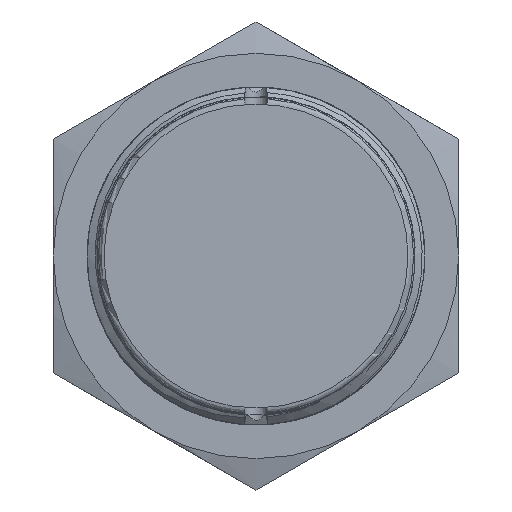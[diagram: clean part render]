
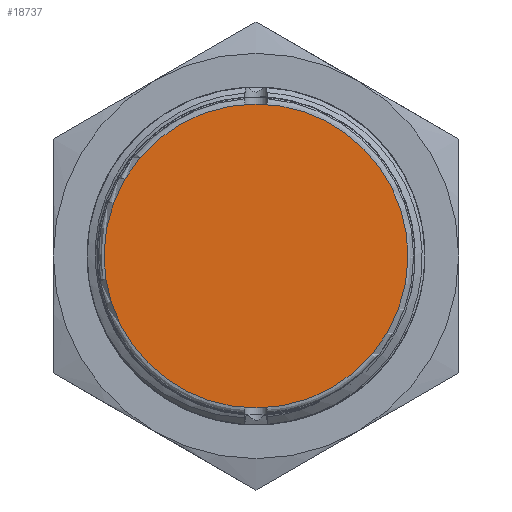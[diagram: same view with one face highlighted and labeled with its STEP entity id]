
A CAD part, left-side view. The second image highlights one B-rep face of the part: STEP entity #18737.
In plain terms, the highlighted planar face has unit normal (-1, 0, 0).
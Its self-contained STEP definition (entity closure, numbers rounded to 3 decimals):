
#8159=CARTESIAN_POINT('',(0.,0.,-13.5));
#8346=CARTESIAN_POINT('',(0.,0.,0.));
#8347=DIRECTION('',(1.,0.,0.));
#8348=DIRECTION('',(0.,0.,-1.));
#8349=AXIS2_PLACEMENT_3D('',#8346,#8347,#8348);
#8354=CARTESIAN_POINT('',(0.,0.,0.));
#8355=DIRECTION('',(1.,0.,0.));
#8356=DIRECTION('',(0.,1.,0.01));
#8357=AXIS2_PLACEMENT_3D('',#8354,#8355,#8356);
#8362=CARTESIAN_POINT('',(0.,0.,0.));
#8363=DIRECTION('',(1.,0.,0.));
#8364=DIRECTION('',(0.,0.,1.));
#8365=AXIS2_PLACEMENT_3D('',#8362,#8363,#8364);
#8370=CARTESIAN_POINT('',(0.,0.,0.));
#8371=DIRECTION('',(1.,0.,0.));
#8372=DIRECTION('',(0.,-1.,-0.01));
#8373=AXIS2_PLACEMENT_3D('',#8370,#8371,#8372);
#11505=VERTEX_POINT('',#8159);
#11506=CARTESIAN_POINT('',(0.,-13.499,-0.134));
#11507=VERTEX_POINT('',#11506);
#11508=CARTESIAN_POINT('',(0.,0.,13.5));
#11509=VERTEX_POINT('',#11508);
#11511=CARTESIAN_POINT('',(0.,13.499,0.134));
#11512=VERTEX_POINT('',#11511);
#18726=CARTESIAN_POINT('',(0.,0.,0.));
#18727=DIRECTION('',(-1.,0.,0.));
#18728=DIRECTION('',(0.,1.,0.));
#18729=AXIS2_PLACEMENT_3D('',#18726,#18727,#18728);
#18730=PLANE('',#18729);
#18731=ORIENTED_EDGE('',*,*,#18705,.T.);
#18732=ORIENTED_EDGE('',*,*,#18703,.T.);
#18733=ORIENTED_EDGE('',*,*,#18656,.T.);
#18734=ORIENTED_EDGE('',*,*,#18654,.T.);
#18735=EDGE_LOOP('',(#18731,#18732,#18733,#18734));
#18736=FACE_OUTER_BOUND('',#18735,.F.);
#8350=CIRCLE('',#8349,13.5);
#8358=CIRCLE('',#8357,13.5);
#8366=CIRCLE('',#8365,13.5);
#8374=CIRCLE('',#8373,13.5);
#18654=EDGE_CURVE('',#11507,#11505,#8374,.T.);
#18656=EDGE_CURVE('',#11509,#11507,#8366,.T.);
#18703=EDGE_CURVE('',#11512,#11509,#8358,.T.);
#18705=EDGE_CURVE('',#11505,#11512,#8350,.T.);
#18737=ADVANCED_FACE('',(#18736),#18730,.T.);
